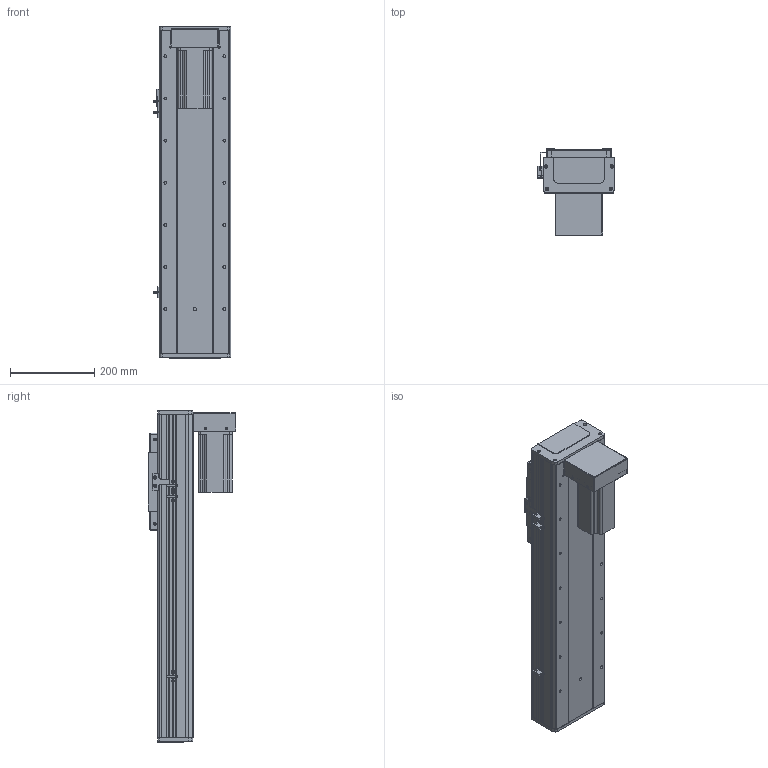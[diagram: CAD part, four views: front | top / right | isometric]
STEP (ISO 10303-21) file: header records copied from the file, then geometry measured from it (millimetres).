
FILE_DESCRIPTION (( 'STEP AP203' ), '1' );
FILE_NAME ('RY170F-L2010-300-BK.SLDASM_450.step', '2021-03-02T08:55:47', ( '盈信电脑' ), ( '东莞市道滘镇水果街19号' ), 'SwSTEP 2.0', 'SolidWorks 2012', '' );
FILE_SCHEMA (( 'CONFIG_CONTROL_DESIGN' ));
Length unit declared in the file: millimetre
Products named in the file (20): RY170F-L2010-300-BK.SLDASM_450; RY170F狟殏萇儂欶; RY170F-狟殏萇儂假蚾啣(750W); RY170狟殏詩湍假蚾輸; 怢湛750W萇儂ㄗ80遺ㄘ; 侐源滅袉蝶; 滅袉蝶18-24; RY170F-詩湍揤踡輸; RY170F-揤踡謫假蚾粣; RY170F俋离覜茼え; RY170F-綴裔啣; 覜茼ん672; RY170F-佪裝臏賑輸20蹟譫; RY170F-丝杆铝滑块连接板; 滅袉蝶18-10; RY100F-詩湍揤踡謫; RY170F-300眻蟀倰第奻裔啣-BK_450; RY170F-300眻蟀倰第菁釱-BK_450; RY170F-滅鳥奻裔; RY170F-300眻蟀祥凄詩湍-MK_450
Assembly tree (25 placements, depth 2):
  RY170F-L2010-300-BK.SLDASM_450
    RY170F-300眻蟀祥凄詩湍-MK_450
    RY170F-300眻蟀倰第奻裔啣-BK_450  x2
    RY170F-滅鳥奻裔
    RY170F-300眻蟀倰第菁釱-BK_450
    RY170F-佪裝臏賑輸20蹟譫
    RY170F-丝杆铝滑块连接板
    滅袉蝶18-10
    RY100F-詩湍揤踡謫
    RY170F-綴裔啣  x2
    覜茼ん672  x3
    RY170F俋离覜茼え
    RY170F-揤踡謫假蚾粣
    RY170F-詩湍揤踡輸  x2
    滅袉蝶18-24
    侐源滅袉蝶  x2
    RY170F-狟殏萇儂假蚾啣(750W)
    怢湛750W萇儂ㄗ80遺ㄘ
    RY170F狟殏萇儂欶
    RY170狟殏詩湍假蚾輸
Bounding box: 183.7 x 208 x 788 mm (x, y, z)
Volume: 5262203.2 mm3; surface area: 1655034.1 mm2
Topology: 25 solids, 25 shells, 1806 faces, 5001 edges, 3184 vertices
Faces by surface type: cylinder 852, plane 762, cone 188, bspline 4
Entity records: 50420 total; most frequent: CARTESIAN_POINT 10100, DIRECTION 8150, ORIENTED_EDGE 7782, EDGE_CURVE 3891, AXIS2_PLACEMENT_3D 2930, VERTEX_POINT 2540, LINE 2290, VECTOR 2290
